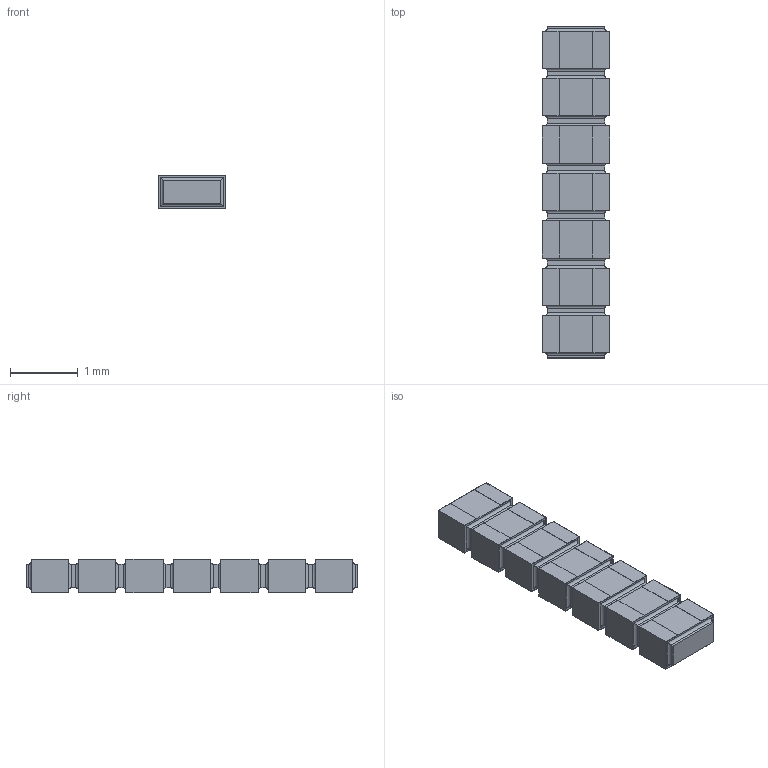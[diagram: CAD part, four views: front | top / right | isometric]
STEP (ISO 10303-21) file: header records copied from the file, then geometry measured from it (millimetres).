
FILE_DESCRIPTION(/* description */ (''),/* implementation_level */ '2;1');
FILE_NAME(/* name */ 'S:\DOCUMENT\AUTOCAD\3D_Modèles\10_3D-pour-VISHAY-COM\PRA\PRA074\PRA074-I2_à_I8\10_IGES\PRA074I7_B-or-N-or-G.stp',/* time_stamp */ '2017-12-19T14:56:01+01:00',/* author */ ('dparmentier'),/* organization */ ('unknown'),/* preprocessor_version */ 'ST-DEVELOPER v17',/* originating_system */ 'Autodesk Inventor 2018',/* authorisation */ '');
FILE_SCHEMA (('AUTOMOTIVE_DESIGN { 1 0 10303 214 3 1 1 }'));
Length unit declared in the file: millimetre
Products named in the file (1): PRA074I7_B-or-N-or-G
Bounding box: 1 x 4.9 x 0.5 mm (x, y, z)
Volume: 2.2 mm3; surface area: 32.1 mm2
Topology: 15 solids, 15 shells, 272 faces, 628 edges, 400 vertices
Faces by surface type: plane 216, cylinder 56
Entity records: 7559 total; most frequent: CARTESIAN_POINT 1301, ORIENTED_EDGE 1256, DIRECTION 1230, EDGE_CURVE 628, LINE 572, VECTOR 572, VERTEX_POINT 400, AXIS2_PLACEMENT_3D 329
